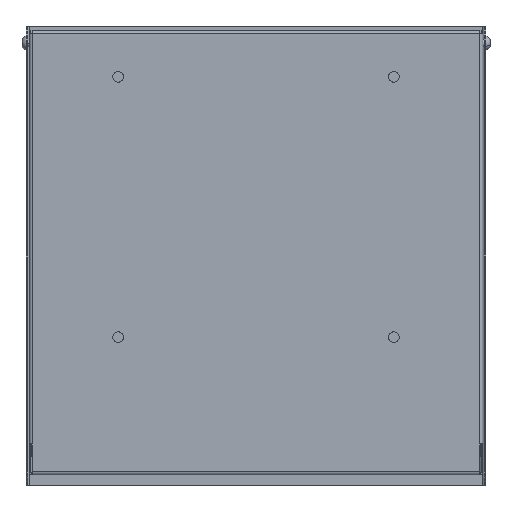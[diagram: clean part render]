
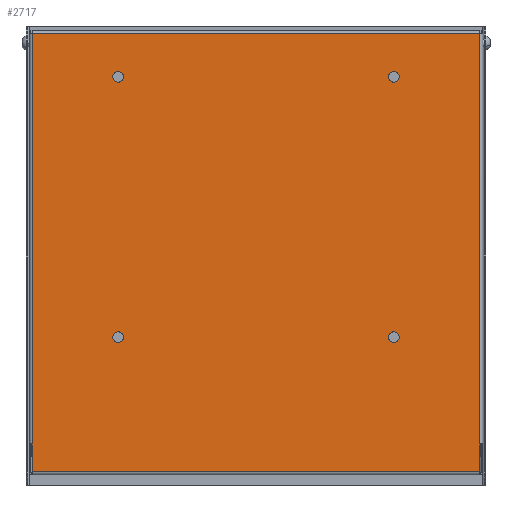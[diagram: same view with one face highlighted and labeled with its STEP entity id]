
A CAD part, front view. The second image highlights one B-rep face of the part: STEP entity #2717.
In plain terms, the highlighted planar face has unit normal (0, -1, 0) as drawn and (0, -0.996, 0.087) by its records, which use the part's own axes.
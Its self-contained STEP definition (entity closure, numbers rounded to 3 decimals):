
#15 = CARTESIAN_POINT ( 'NONE',  ( 146., -61.158, 21.098 ) ) ;
#19 = ORIENTED_EDGE ( 'NONE', *, *, #4848, .T. ) ;
#47 = CARTESIAN_POINT ( 'NONE',  ( 146., -61.324, 19.205 ) ) ;
#50 = ORIENTED_EDGE ( 'NONE', *, *, #1182, .T. ) ;
#116 = EDGE_LOOP ( 'NONE', ( #3165, #573 ) ) ;
#186 = VECTOR ( 'NONE', #4491, 1000. ) ;
#240 = ORIENTED_EDGE ( 'NONE', *, *, #2828, .T. ) ;
#252 = CARTESIAN_POINT ( 'NONE',  ( -148., -37.99, 285.904 ) ) ;
#278 = DIRECTION ( 'NONE',  ( 1., 0., 0. ) ) ;
#371 = LINE ( 'NONE', #2155, #4681 ) ;
#404 = FACE_OUTER_BOUND ( 'NONE', #4508, .T. ) ;
#407 = ORIENTED_EDGE ( 'NONE', *, *, #5260, .T. ) ;
#474 = CIRCLE ( 'NONE', #4488, 3.5 ) ;
#495 = DIRECTION ( 'NONE',  ( 0., 0.996, -0.087 ) ) ;
#556 = EDGE_CURVE ( 'NONE', #829, #2500, #4045, .T. ) ;
#573 = ORIENTED_EDGE ( 'NONE', *, *, #4617, .T. ) ;
#641 = CARTESIAN_POINT ( 'NONE',  ( -90., -40.736, 254.524 ) ) ;
#657 = AXIS2_PLACEMENT_3D ( 'NONE', #2633, #2199, #3971 ) ;
#694 = DIRECTION ( 'NONE',  ( 0., 0.996, -0.087 ) ) ;
#753 = EDGE_CURVE ( 'NONE', #5281, #1241, #1130, .T. ) ;
#759 = LINE ( 'NONE', #2552, #4528 ) ;
#776 = DIRECTION ( 'NONE',  ( 0., 0.087, 0.996 ) ) ;
#829 = VERTEX_POINT ( 'NONE', #5675 ) ;
#833 = ORIENTED_EDGE ( 'NONE', *, *, #2604, .F. ) ;
#839 = AXIS2_PLACEMENT_3D ( 'NONE', #3713, #3290, #3768 ) ;
#859 = DIRECTION ( 'NONE',  ( 0., -0.087, -0.996 ) ) ;
#949 = ORIENTED_EDGE ( 'NONE', *, *, #753, .T. ) ;
#1130 = LINE ( 'NONE', #2078, #2167 ) ;
#1182 = EDGE_CURVE ( 'NONE', #5774, #5281, #371, .T. ) ;
#1183 = FACE_BOUND ( 'NONE', #2506, .T. ) ;
#1185 = ORIENTED_EDGE ( 'NONE', *, *, #4363, .T. ) ;
#1241 = VERTEX_POINT ( 'NONE', #5481 ) ;
#1265 = FACE_BOUND ( 'NONE', #1906, .T. ) ;
#1319 = CARTESIAN_POINT ( 'NONE',  ( -146., -37.99, 285.904 ) ) ;
#1513 = FACE_BOUND ( 'NONE', #116, .T. ) ;
#1574 = CARTESIAN_POINT ( 'NONE',  ( -90., -54.942, 92.144 ) ) ;
#1585 = AXIS2_PLACEMENT_3D ( 'NONE', #5475, #2382, #4677 ) ;
#1619 = ORIENTED_EDGE ( 'NONE', *, *, #5494, .T. ) ;
#1639 = VERTEX_POINT ( 'NONE', #2576 ) ;
#1692 = AXIS2_PLACEMENT_3D ( 'NONE', #5352, #495, #3970 ) ;
#1702 = CARTESIAN_POINT ( 'NONE',  ( 90., -54.942, 92.144 ) ) ;
#1793 = ORIENTED_EDGE ( 'NONE', *, *, #556, .T. ) ;
#1870 = CIRCLE ( 'NONE', #839, 3.5 ) ;
#1898 = VERTEX_POINT ( 'NONE', #4542 ) ;
#1906 = EDGE_LOOP ( 'NONE', ( #1185, #407 ) ) ;
#2075 = CARTESIAN_POINT ( 'NONE',  ( 90., -40.431, 258.011 ) ) ;
#2078 = CARTESIAN_POINT ( 'NONE',  ( -146., -62.996, 0.087 ) ) ;
#2106 = AXIS2_PLACEMENT_3D ( 'NONE', #4459, #4949, #2703 ) ;
#2155 = CARTESIAN_POINT ( 'NONE',  ( -146., -62.996, 0.087 ) ) ;
#2163 = VERTEX_POINT ( 'NONE', #4149 ) ;
#2167 = VECTOR ( 'NONE', #4757, 1000. ) ;
#2199 = DIRECTION ( 'NONE',  ( 0., 0.996, -0.087 ) ) ;
#2222 = CARTESIAN_POINT ( 'NONE',  ( -90., -40.431, 258.011 ) ) ;
#2288 = VERTEX_POINT ( 'NONE', #641 ) ;
#2382 = DIRECTION ( 'NONE',  ( 0., 0.996, -0.087 ) ) ;
#2455 = VERTEX_POINT ( 'NONE', #5460 ) ;
#2500 = VERTEX_POINT ( 'NONE', #47 ) ;
#2506 = EDGE_LOOP ( 'NONE', ( #1619, #240 ) ) ;
#2552 = CARTESIAN_POINT ( 'NONE',  ( 0., -62.901, 1.174 ) ) ;
#2576 = CARTESIAN_POINT ( 'NONE',  ( -90., -55.552, 85.171 ) ) ;
#2604 = EDGE_CURVE ( 'NONE', #5774, #3956, #2932, .T. ) ;
#2633 = CARTESIAN_POINT ( 'NONE',  ( -90., -40.431, 258.011 ) ) ;
#2703 = DIRECTION ( 'NONE',  ( 0., 0.087, 0.996 ) ) ;
#2708 = LINE ( 'NONE', #15, #186 ) ;
#2717 = ADVANCED_FACE ( 'NONE', ( #1513, #4696, #1183, #1265, #404 ), #3045, .F. ) ;
#2800 = CIRCLE ( 'NONE', #657, 3.5 ) ;
#2811 = CIRCLE ( 'NONE', #5339, 3.5 ) ;
#2828 = EDGE_CURVE ( 'NONE', #1639, #3705, #474, .T. ) ;
#2893 = EDGE_CURVE ( 'NONE', #2163, #2455, #3697, .T. ) ;
#2900 = CIRCLE ( 'NONE', #1692, 3.5 ) ;
#2932 = LINE ( 'NONE', #252, #5701 ) ;
#2943 = CARTESIAN_POINT ( 'NONE',  ( 90., -55.552, 85.171 ) ) ;
#3045 = PLANE ( 'NONE',  #4211 ) ;
#3165 = ORIENTED_EDGE ( 'NONE', *, *, #2893, .T. ) ;
#3290 = DIRECTION ( 'NONE',  ( 0., 0.996, -0.087 ) ) ;
#3652 = EDGE_CURVE ( 'NONE', #829, #1241, #759, .T. ) ;
#3697 = CIRCLE ( 'NONE', #2106, 3.5 ) ;
#3705 = VERTEX_POINT ( 'NONE', #1574 ) ;
#3713 = CARTESIAN_POINT ( 'NONE',  ( -90., -55.247, 88.658 ) ) ;
#3768 = DIRECTION ( 'NONE',  ( 0., 0.087, 0.996 ) ) ;
#3836 = CIRCLE ( 'NONE', #1585, 3.5 ) ;
#3868 = EDGE_LOOP ( 'NONE', ( #19, #4915 ) ) ;
#3886 = DIRECTION ( 'NONE',  ( 0., 0.087, 0.996 ) ) ;
#3936 = DIRECTION ( 'NONE',  ( 0., 0.996, -0.087 ) ) ;
#3943 = DIRECTION ( 'NONE',  ( 0., 0.087, 0.996 ) ) ;
#3956 = VERTEX_POINT ( 'NONE', #4304 ) ;
#3970 = DIRECTION ( 'NONE',  ( 0., 0.087, 0.996 ) ) ;
#3971 = DIRECTION ( 'NONE',  ( 0., 0.087, 0.996 ) ) ;
#4045 = LINE ( 'NONE', #4482, #4936 ) ;
#4100 = DIRECTION ( 'NONE',  ( 0., 0.087, 0.996 ) ) ;
#4114 = CIRCLE ( 'NONE', #5145, 3.5 ) ;
#4149 = CARTESIAN_POINT ( 'NONE',  ( 90., -40.126, 261.497 ) ) ;
#4211 = AXIS2_PLACEMENT_3D ( 'NONE', #4831, #4428, #5220 ) ;
#4222 = VERTEX_POINT ( 'NONE', #2943 ) ;
#4304 = CARTESIAN_POINT ( 'NONE',  ( 146., -37.99, 285.904 ) ) ;
#4326 = DIRECTION ( 'NONE',  ( -1., 0., 0. ) ) ;
#4363 = EDGE_CURVE ( 'NONE', #5013, #4222, #2900, .T. ) ;
#4377 = DIRECTION ( 'NONE',  ( 0., 0.996, -0.087 ) ) ;
#4428 = DIRECTION ( 'NONE',  ( 0., 0.996, -0.087 ) ) ;
#4459 = CARTESIAN_POINT ( 'NONE',  ( 90., -40.431, 258.011 ) ) ;
#4482 = CARTESIAN_POINT ( 'NONE',  ( 146., -37.816, 287.896 ) ) ;
#4488 = AXIS2_PLACEMENT_3D ( 'NONE', #4751, #3936, #776 ) ;
#4491 = DIRECTION ( 'NONE',  ( 0., 0.087, 0.996 ) ) ;
#4508 = EDGE_LOOP ( 'NONE', ( #4782, #833, #50, #949, #5087, #1793 ) ) ;
#4528 = VECTOR ( 'NONE', #4326, 1000. ) ;
#4542 = CARTESIAN_POINT ( 'NONE',  ( -90., -40.126, 261.497 ) ) ;
#4617 = EDGE_CURVE ( 'NONE', #2455, #2163, #4114, .T. ) ;
#4677 = DIRECTION ( 'NONE',  ( 0., 0.087, 0.996 ) ) ;
#4681 = VECTOR ( 'NONE', #859, 1000. ) ;
#4696 = FACE_BOUND ( 'NONE', #3868, .T. ) ;
#4751 = CARTESIAN_POINT ( 'NONE',  ( -90., -55.247, 88.658 ) ) ;
#4757 = DIRECTION ( 'NONE',  ( 0., -0.087, -0.996 ) ) ;
#4782 = ORIENTED_EDGE ( 'NONE', *, *, #4787, .T. ) ;
#4787 = EDGE_CURVE ( 'NONE', #2500, #3956, #2708, .T. ) ;
#4831 = CARTESIAN_POINT ( 'NONE',  ( 0., -62.525, 5.47 ) ) ;
#4848 = EDGE_CURVE ( 'NONE', #1898, #2288, #2811, .T. ) ;
#4915 = ORIENTED_EDGE ( 'NONE', *, *, #5398, .T. ) ;
#4936 = VECTOR ( 'NONE', #4100, 1000. ) ;
#4949 = DIRECTION ( 'NONE',  ( 0., 0.996, -0.087 ) ) ;
#5013 = VERTEX_POINT ( 'NONE', #1702 ) ;
#5087 = ORIENTED_EDGE ( 'NONE', *, *, #3652, .F. ) ;
#5145 = AXIS2_PLACEMENT_3D ( 'NONE', #2075, #694, #3886 ) ;
#5220 = DIRECTION ( 'NONE',  ( 0., 0.087, 0.996 ) ) ;
#5260 = EDGE_CURVE ( 'NONE', #4222, #5013, #3836, .T. ) ;
#5281 = VERTEX_POINT ( 'NONE', #5584 ) ;
#5339 = AXIS2_PLACEMENT_3D ( 'NONE', #2222, #4377, #3943 ) ;
#5352 = CARTESIAN_POINT ( 'NONE',  ( 90., -55.247, 88.658 ) ) ;
#5398 = EDGE_CURVE ( 'NONE', #2288, #1898, #2800, .T. ) ;
#5460 = CARTESIAN_POINT ( 'NONE',  ( 90., -40.736, 254.524 ) ) ;
#5475 = CARTESIAN_POINT ( 'NONE',  ( 90., -55.247, 88.658 ) ) ;
#5481 = CARTESIAN_POINT ( 'NONE',  ( -146., -62.901, 1.174 ) ) ;
#5494 = EDGE_CURVE ( 'NONE', #3705, #1639, #1870, .T. ) ;
#5584 = CARTESIAN_POINT ( 'NONE',  ( -146., -61.324, 19.205 ) ) ;
#5675 = CARTESIAN_POINT ( 'NONE',  ( 146., -62.901, 1.174 ) ) ;
#5701 = VECTOR ( 'NONE', #278, 1000. ) ;
#5774 = VERTEX_POINT ( 'NONE', #1319 ) ;
